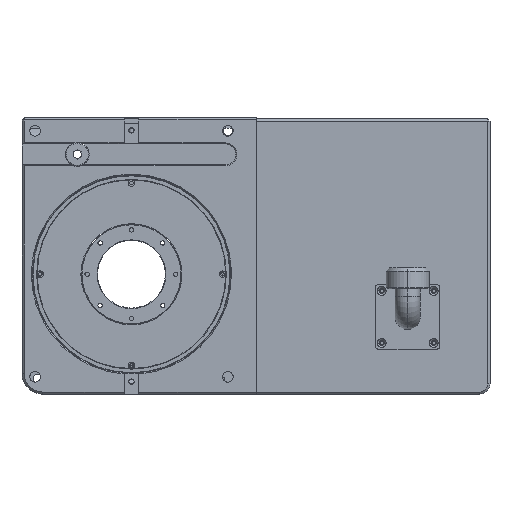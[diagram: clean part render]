
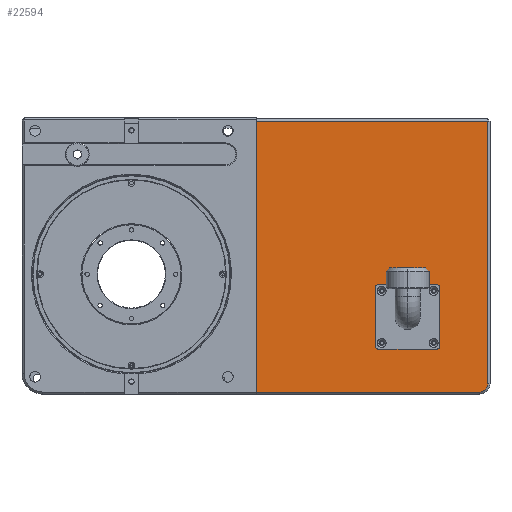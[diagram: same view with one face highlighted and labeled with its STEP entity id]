
A CAD part, front view. The second image highlights one B-rep face of the part: STEP entity #22594.
In plain terms, the highlighted planar face has unit normal (0, -1, 0).
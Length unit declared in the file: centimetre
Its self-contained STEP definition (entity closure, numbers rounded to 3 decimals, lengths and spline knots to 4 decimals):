
#436 = AXIS2_PLACEMENT_3D ( 'NONE', #12842, #11112, #18918 ) ;
#449 = CIRCLE ( 'NONE', #16367, 0.2025 ) ;
#573 = ORIENTED_EDGE ( 'NONE', *, *, #8386, .T. ) ;
#955 = CARTESIAN_POINT ( 'NONE',  ( 25.7244, -8.0175, 20.65 ) ) ;
#960 = AXIS2_PLACEMENT_3D ( 'NONE', #1871, #20005, #3776 ) ;
#1170 = AXIS2_PLACEMENT_3D ( 'NONE', #955, #21256, #10013 ) ;
#1229 = CARTESIAN_POINT ( 'NONE',  ( 28.4269, -8.0175, 23.15 ) ) ;
#1240 = CARTESIAN_POINT ( 'NONE',  ( 11.2244, -8.0175, 39.45 ) ) ;
#1281 = ORIENTED_EDGE ( 'NONE', *, *, #20054, .F. ) ;
#1487 = EDGE_LOOP ( 'NONE', ( #14570, #12366 ) ) ;
#1586 = CIRCLE ( 'NONE', #960, 0.2025 ) ;
#1809 = VERTEX_POINT ( 'NONE', #14846 ) ;
#1871 = CARTESIAN_POINT ( 'NONE',  ( 28.2244, -8.0175, 23.15 ) ) ;
#1888 = CARTESIAN_POINT ( 'NONE',  ( 28.2244, -8.0175, 18.15 ) ) ;
#1962 = VERTEX_POINT ( 'NONE', #20787 ) ;
#2188 = VECTOR ( 'NONE', #16583, 100. ) ;
#2414 = DIRECTION ( 'NONE',  ( -1., 0., 0. ) ) ;
#3054 = EDGE_CURVE ( 'NONE', #12256, #10672, #19302, .T. ) ;
#3231 = CARTESIAN_POINT ( 'NONE',  ( 28.2244, -8.0175, 18.15 ) ) ;
#3472 = CARTESIAN_POINT ( 'NONE',  ( 23.2244, -8.0175, 23.15 ) ) ;
#3728 = CIRCLE ( 'NONE', #15719, 0.2025 ) ;
#3776 = DIRECTION ( 'NONE',  ( -1., 0., 0. ) ) ;
#3891 = DIRECTION ( 'NONE',  ( 0., -1., 0. ) ) ;
#3924 = EDGE_LOOP ( 'NONE', ( #10045, #11433 ) ) ;
#4050 = AXIS2_PLACEMENT_3D ( 'NONE', #7957, #6283, #9862 ) ;
#4096 = AXIS2_PLACEMENT_3D ( 'NONE', #17068, #22667, #4305 ) ;
#4130 = AXIS2_PLACEMENT_3D ( 'NONE', #6011, #4177, #11594 ) ;
#4139 = LINE ( 'NONE', #19022, #23165 ) ;
#4177 = DIRECTION ( 'NONE',  ( 0., 1., 0. ) ) ;
#4293 = ORIENTED_EDGE ( 'NONE', *, *, #17689, .T. ) ;
#4305 = DIRECTION ( 'NONE',  ( -1., 0., 0. ) ) ;
#4352 = CARTESIAN_POINT ( 'NONE',  ( 23.4269, -8.0175, 23.15 ) ) ;
#4738 = EDGE_CURVE ( 'NONE', #8147, #1809, #3728, .T. ) ;
#5380 = DIRECTION ( 'NONE',  ( -1., 0., 0. ) ) ;
#5488 = FACE_BOUND ( 'NONE', #11353, .T. ) ;
#6011 = CARTESIAN_POINT ( 'NONE',  ( 33.6244, -8.0175, 13.25 ) ) ;
#6283 = DIRECTION ( 'NONE',  ( 0., -1., 0. ) ) ;
#6410 = CARTESIAN_POINT ( 'NONE',  ( 11.2244, -8.0175, 13.45 ) ) ;
#6472 = VERTEX_POINT ( 'NONE', #1229 ) ;
#6600 = DIRECTION ( 'NONE',  ( 0., -1., 0. ) ) ;
#6629 = ORIENTED_EDGE ( 'NONE', *, *, #21561, .F. ) ;
#6643 = FACE_BOUND ( 'NONE', #16685, .T. ) ;
#6681 = DIRECTION ( 'NONE',  ( 0., 0., 1. ) ) ;
#6787 = CARTESIAN_POINT ( 'NONE',  ( 23.4269, -8.0175, 18.15 ) ) ;
#7177 = VERTEX_POINT ( 'NONE', #10441 ) ;
#7276 = AXIS2_PLACEMENT_3D ( 'NONE', #15089, #11248, #2414 ) ;
#7355 = CARTESIAN_POINT ( 'NONE',  ( 33.4244, -8.0175, 14.25 ) ) ;
#7763 = VERTEX_POINT ( 'NONE', #6410 ) ;
#7957 = CARTESIAN_POINT ( 'NONE',  ( 25.7244, -8.0175, 20.65 ) ) ;
#7997 = CARTESIAN_POINT ( 'NONE',  ( 28.0219, -8.0175, 18.15 ) ) ;
#8147 = VERTEX_POINT ( 'NONE', #4352 ) ;
#8386 = EDGE_CURVE ( 'NONE', #10672, #14854, #19093, .T. ) ;
#8447 = CIRCLE ( 'NONE', #436, 0.2025 ) ;
#9422 = EDGE_LOOP ( 'NONE', ( #1281, #14571 ) ) ;
#9759 = FACE_BOUND ( 'NONE', #9422, .T. ) ;
#9862 = DIRECTION ( 'NONE',  ( 0., 0., -1. ) ) ;
#10013 = DIRECTION ( 'NONE',  ( 0., 0., -1. ) ) ;
#10039 = VERTEX_POINT ( 'NONE', #1240 ) ;
#10045 = ORIENTED_EDGE ( 'NONE', *, *, #11493, .F. ) ;
#10082 = CARTESIAN_POINT ( 'NONE',  ( 33.4244, -8.0175, 39.65 ) ) ;
#10154 = DIRECTION ( 'NONE',  ( 0., 0., 1. ) ) ;
#10418 = CARTESIAN_POINT ( 'NONE',  ( 25.7244, -8.0175, 23.15 ) ) ;
#10441 = CARTESIAN_POINT ( 'NONE',  ( 28.0219, -8.0175, 23.15 ) ) ;
#10494 = DIRECTION ( 'NONE',  ( -1., 0., 0. ) ) ;
#10666 = EDGE_CURVE ( 'NONE', #7177, #6472, #1586, .T. ) ;
#10672 = VERTEX_POINT ( 'NONE', #7355 ) ;
#10942 = CIRCLE ( 'NONE', #4096, 0.2025 ) ;
#11094 = ORIENTED_EDGE ( 'NONE', *, *, #4738, .F. ) ;
#11112 = DIRECTION ( 'NONE',  ( 0., -1., 0. ) ) ;
#11248 = DIRECTION ( 'NONE',  ( 0., -1., 0. ) ) ;
#11264 = ORIENTED_EDGE ( 'NONE', *, *, #17032, .T. ) ;
#11353 = EDGE_LOOP ( 'NONE', ( #19541, #11094 ) ) ;
#11433 = ORIENTED_EDGE ( 'NONE', *, *, #17364, .F. ) ;
#11493 = EDGE_CURVE ( 'NONE', #14817, #18397, #21651, .T. ) ;
#11594 = DIRECTION ( 'NONE',  ( 0., 0., 1. ) ) ;
#11824 = DIRECTION ( 'NONE',  ( 0., 0., -1. ) ) ;
#12256 = VERTEX_POINT ( 'NONE', #17720 ) ;
#12333 = DIRECTION ( 'NONE',  ( 0., -1., 0. ) ) ;
#12366 = ORIENTED_EDGE ( 'NONE', *, *, #12812, .F. ) ;
#12403 = DIRECTION ( 'NONE',  ( 0., -1., 0. ) ) ;
#12511 = VERTEX_POINT ( 'NONE', #6787 ) ;
#12609 = VERTEX_POINT ( 'NONE', #12817 ) ;
#12812 = EDGE_CURVE ( 'NONE', #23680, #12609, #21607, .T. ) ;
#12817 = CARTESIAN_POINT ( 'NONE',  ( 25.7244, -8.0175, 18.15 ) ) ;
#12842 = CARTESIAN_POINT ( 'NONE',  ( 23.2244, -8.0175, 18.15 ) ) ;
#12897 = CARTESIAN_POINT ( 'NONE',  ( 33.6244, -8.0175, 39.45 ) ) ;
#12953 = CIRCLE ( 'NONE', #7276, 0.2025 ) ;
#12992 = VECTOR ( 'NONE', #10154, 100. ) ;
#13166 = ORIENTED_EDGE ( 'NONE', *, *, #10666, .F. ) ;
#13619 = LINE ( 'NONE', #14377, #15065 ) ;
#13917 = AXIS2_PLACEMENT_3D ( 'NONE', #3472, #12333, #18001 ) ;
#14377 = CARTESIAN_POINT ( 'NONE',  ( 33.6244, -8.0175, 13.45 ) ) ;
#14570 = ORIENTED_EDGE ( 'NONE', *, *, #17321, .F. ) ;
#14571 = ORIENTED_EDGE ( 'NONE', *, *, #16495, .F. ) ;
#14817 = VERTEX_POINT ( 'NONE', #7997 ) ;
#14835 = CARTESIAN_POINT ( 'NONE',  ( 23.2244, -8.0175, 23.15 ) ) ;
#14846 = CARTESIAN_POINT ( 'NONE',  ( 23.0219, -8.0175, 23.15 ) ) ;
#14854 = VERTEX_POINT ( 'NONE', #19014 ) ;
#14906 = FACE_OUTER_BOUND ( 'NONE', #21542, .T. ) ;
#15065 = VECTOR ( 'NONE', #21704, 100. ) ;
#15089 = CARTESIAN_POINT ( 'NONE',  ( 23.2244, -8.0175, 18.15 ) ) ;
#15719 = AXIS2_PLACEMENT_3D ( 'NONE', #14835, #3891, #20781 ) ;
#15991 = AXIS2_PLACEMENT_3D ( 'NONE', #3231, #12403, #10494 ) ;
#16111 = FACE_BOUND ( 'NONE', #1487, .T. ) ;
#16367 = AXIS2_PLACEMENT_3D ( 'NONE', #1888, #20017, #5380 ) ;
#16428 = FACE_BOUND ( 'NONE', #3924, .T. ) ;
#16495 = EDGE_CURVE ( 'NONE', #12511, #1962, #8447, .T. ) ;
#16583 = DIRECTION ( 'NONE',  ( -1., 0., 0. ) ) ;
#16685 = EDGE_LOOP ( 'NONE', ( #13166, #6629 ) ) ;
#17032 = EDGE_CURVE ( 'NONE', #14854, #10039, #17954, .T. ) ;
#17068 = CARTESIAN_POINT ( 'NONE',  ( 28.2244, -8.0175, 23.15 ) ) ;
#17321 = EDGE_CURVE ( 'NONE', #12609, #23680, #18795, .T. ) ;
#17364 = EDGE_CURVE ( 'NONE', #18397, #14817, #449, .T. ) ;
#17612 = CARTESIAN_POINT ( 'NONE',  ( 32.6244, -8.0175, 14.25 ) ) ;
#17689 = EDGE_CURVE ( 'NONE', #10039, #7763, #4139, .T. ) ;
#17720 = CARTESIAN_POINT ( 'NONE',  ( 32.6244, -8.0175, 13.45 ) ) ;
#17954 = LINE ( 'NONE', #12897, #2188 ) ;
#17974 = EDGE_CURVE ( 'NONE', #7763, #12256, #13619, .T. ) ;
#18001 = DIRECTION ( 'NONE',  ( -1., 0., 0. ) ) ;
#18397 = VERTEX_POINT ( 'NONE', #22009 ) ;
#18795 = CIRCLE ( 'NONE', #1170, 2.5 ) ;
#18918 = DIRECTION ( 'NONE',  ( -1., 0., 0. ) ) ;
#19014 = CARTESIAN_POINT ( 'NONE',  ( 33.4244, -8.0175, 39.45 ) ) ;
#19022 = CARTESIAN_POINT ( 'NONE',  ( 11.2244, -8.0175, 13.25 ) ) ;
#19093 = LINE ( 'NONE', #10082, #12992 ) ;
#19302 = CIRCLE ( 'NONE', #23410, 0.8 ) ;
#19541 = ORIENTED_EDGE ( 'NONE', *, *, #23759, .F. ) ;
#20005 = DIRECTION ( 'NONE',  ( 0., -1., 0. ) ) ;
#20017 = DIRECTION ( 'NONE',  ( 0., -1., 0. ) ) ;
#20054 = EDGE_CURVE ( 'NONE', #1962, #12511, #12953, .T. ) ;
#20678 = PLANE ( 'NONE',  #4130 ) ;
#20781 = DIRECTION ( 'NONE',  ( -1., 0., 0. ) ) ;
#20787 = CARTESIAN_POINT ( 'NONE',  ( 23.0219, -8.0175, 18.15 ) ) ;
#21256 = DIRECTION ( 'NONE',  ( 0., -1., 0. ) ) ;
#21542 = EDGE_LOOP ( 'NONE', ( #4293, #21797, #22837, #573, #11264 ) ) ;
#21561 = EDGE_CURVE ( 'NONE', #6472, #7177, #10942, .T. ) ;
#21607 = CIRCLE ( 'NONE', #4050, 2.5 ) ;
#21651 = CIRCLE ( 'NONE', #15991, 0.2025 ) ;
#21704 = DIRECTION ( 'NONE',  ( 1., 0., 0. ) ) ;
#21797 = ORIENTED_EDGE ( 'NONE', *, *, #17974, .T. ) ;
#22009 = CARTESIAN_POINT ( 'NONE',  ( 28.4269, -8.0175, 18.15 ) ) ;
#22594 = ADVANCED_FACE ( 'NONE', ( #16428, #6643, #16111, #14906, #5488, #9759 ), #20678, .F. ) ;
#22667 = DIRECTION ( 'NONE',  ( 0., -1., 0. ) ) ;
#22742 = CIRCLE ( 'NONE', #13917, 0.2025 ) ;
#22837 = ORIENTED_EDGE ( 'NONE', *, *, #3054, .T. ) ;
#23165 = VECTOR ( 'NONE', #11824, 100. ) ;
#23410 = AXIS2_PLACEMENT_3D ( 'NONE', #17612, #6600, #6681 ) ;
#23680 = VERTEX_POINT ( 'NONE', #10418 ) ;
#23759 = EDGE_CURVE ( 'NONE', #1809, #8147, #22742, .T. ) ;
